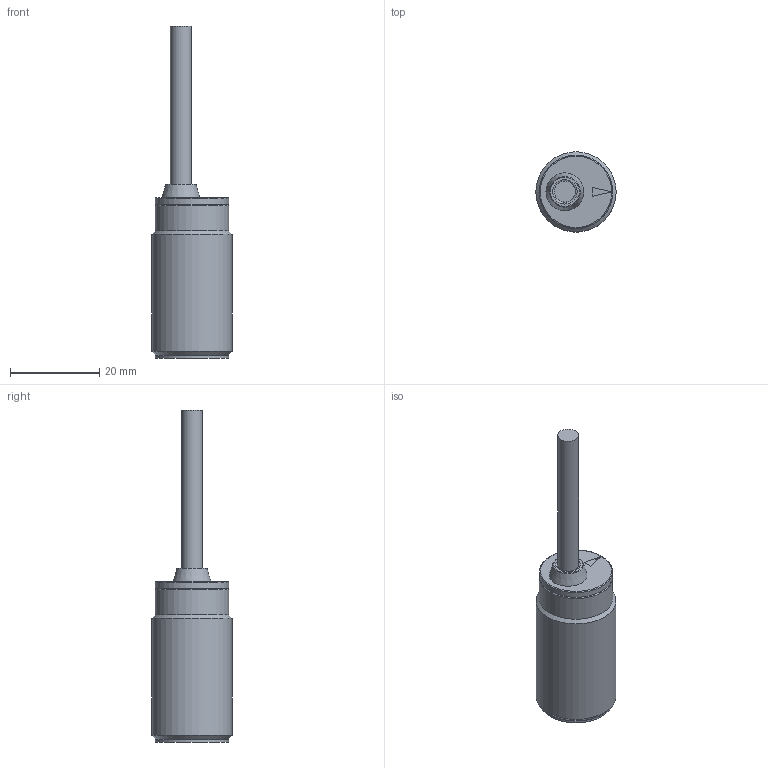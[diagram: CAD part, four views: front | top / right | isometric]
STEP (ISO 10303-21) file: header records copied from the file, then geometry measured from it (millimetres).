
FILE_DESCRIPTION( ( 'Unknown' ), '1' );
FILE_NAME( '//SRVMDFS14/Dati_CAD/Arch_Dis_Prodotti/Definitivi/Conversione_Fig/STP/AK6_1A_fig.stp', 'Unknown', ( 'Unknown' ), ( 'Unknown' ), 'PSStep 17.0.49', 'Unknown', ' ' );
FILE_SCHEMA( ( 'AUTOMOTIVE_DESIGN { 1 0 10303 214 1 1 1 1 }' ) );
Length unit declared in the file: millimetre
Products named in the file (5): Assem1; -oa0
Assembly tree (4 placements, depth 2):
  Assem1
    -oa0
    -oa0
    -oa0
    -oa0
Bounding box: 18 x 18 x 74.5 mm (x, y, z)
Volume: 105.6 mm3; surface area: 3508.3 mm2
Topology: 1 solids, 16 shells, 18 faces, 48 edges, 36 vertices
Faces by surface type: plane 6, cylinder 5, cone 4, torus 3
Full cylindrical faces by diameter (mm): 4.7 x1, 16.4 x2, 16.5 x1, 18 x1
Entity records: 578 total; most frequent: DIRECTION 110, CARTESIAN_POINT 89, AXIS2_PLACEMENT_3D 54, ORIENTED_EDGE 35, EDGE_LOOP 34, EDGE_CURVE 33, VERTEX_POINT 33, CIRCLE 31
